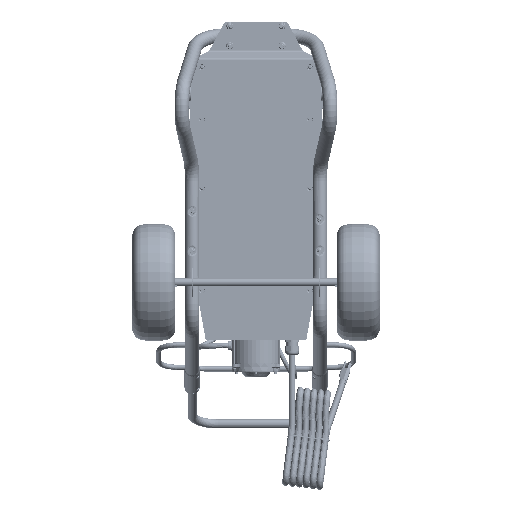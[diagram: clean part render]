
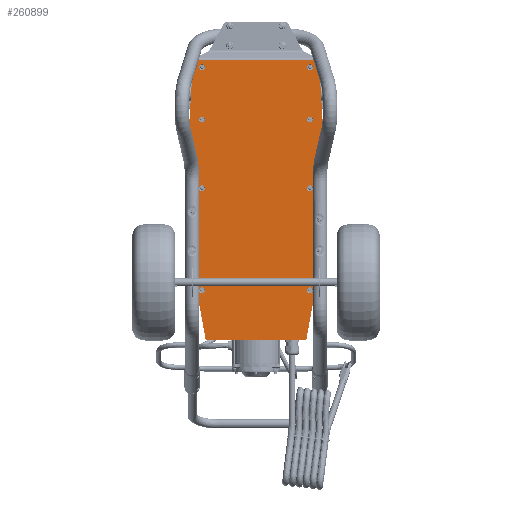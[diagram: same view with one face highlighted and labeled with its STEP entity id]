
A CAD part, front view. The second image highlights one B-rep face of the part: STEP entity #260899.
In plain terms, the highlighted planar face has unit normal (0, -1, 0).
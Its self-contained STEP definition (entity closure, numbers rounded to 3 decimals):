
#259944=CARTESIAN_POINT('',(-6.006,-0.203,3.147));
#259969=CARTESIAN_POINT('',(6.006,-0.203,3.147));
#259976=DIRECTION('',(1.,0.,0.));
#259977=VECTOR('',#259976,12.012);
#259978=CARTESIAN_POINT('',(-6.006,-0.203,3.147));
#259979=LINE('',#259978,#259977);
#260000=CARTESIAN_POINT('',(-4.633,-0.203,-23.386));
#260001=DIRECTION('',(0.,-1.,0.));
#260002=DIRECTION('',(-0.984,0.,-0.179));
#260003=AXIS2_PLACEMENT_3D('',#260000,#260001,#260002);
#260005=DIRECTION('',(-0.179,0.,0.984));
#260006=VECTOR('',#260005,3.579);
#260007=CARTESIAN_POINT('',(-4.83,-0.203,-23.422));
#260008=LINE('',#260007,#260006);
#260009=CARTESIAN_POINT('',(-6.55,-0.203,-19.536));
#260010=DIRECTION('',(0.,-1.,0.));
#260011=DIRECTION('',(-1.,0.,0.));
#260012=AXIS2_PLACEMENT_3D('',#260009,#260010,#260011);
#260014=CARTESIAN_POINT('',(-5.75,-0.203,-8.767));
#260015=DIRECTION('',(0.,-1.,0.));
#260016=DIRECTION('',(-0.998,0.,0.063));
#260017=AXIS2_PLACEMENT_3D('',#260014,#260015,#260016);
#260019=DIRECTION('',(0.063,0.,0.998));
#260020=VECTOR('',#260019,11.875);
#260021=CARTESIAN_POINT('',(-6.748,-0.203,-8.705));
#260022=LINE('',#260021,#260020);
#260023=DIRECTION('',(0.063,0.,-0.998));
#260024=VECTOR('',#260023,11.875);
#260025=CARTESIAN_POINT('',(6.006,-0.203,3.147));
#260026=LINE('',#260025,#260024);
#260027=CARTESIAN_POINT('',(5.75,-0.203,-8.767));
#260028=DIRECTION('',(0.,-1.,0.));
#260029=DIRECTION('',(1.,0.,0.));
#260030=AXIS2_PLACEMENT_3D('',#260027,#260028,#260029);
#260032=CARTESIAN_POINT('',(6.55,-0.203,-19.536));
#260033=DIRECTION('',(0.,-1.,0.));
#260034=DIRECTION('',(0.,0.,-1.));
#260035=AXIS2_PLACEMENT_3D('',#260032,#260033,#260034);
#260037=DIRECTION('',(-0.179,0.,-0.984));
#260038=VECTOR('',#260037,3.579);
#260039=CARTESIAN_POINT('',(5.47,-0.203,-19.9));
#260040=LINE('',#260039,#260038);
#260041=CARTESIAN_POINT('',(4.633,-0.203,-23.386));
#260042=DIRECTION('',(0.,-1.,0.));
#260043=DIRECTION('',(0.,0.,-1.));
#260044=AXIS2_PLACEMENT_3D('',#260041,#260042,#260043);
#260046=DIRECTION('',(-1.,0.,0.));
#260047=VECTOR('',#260046,9.266);
#260048=CARTESIAN_POINT('',(4.633,-0.203,-23.586));
#260049=LINE('',#260048,#260047);
#260066=CARTESIAN_POINT('',(5.667,-0.203,-19.936));
#260067=DIRECTION('',(0.,1.,0.));
#260068=DIRECTION('',(-0.984,0.,0.179));
#260069=AXIS2_PLACEMENT_3D('',#260066,#260067,#260068);
#260088=DIRECTION('',(1.,0.,0.));
#260089=VECTOR('',#260088,0.883);
#260090=CARTESIAN_POINT('',(5.667,-0.203,-19.736));
#260091=LINE('',#260090,#260089);
#260096=DIRECTION('',(0.,0.,-1.));
#260097=VECTOR('',#260096,10.769);
#260098=CARTESIAN_POINT('',(6.75,-0.203,-8.767));
#260099=LINE('',#260098,#260097);
#260174=DIRECTION('',(0.,0.,-1.));
#260175=VECTOR('',#260174,10.769);
#260176=CARTESIAN_POINT('',(-6.75,-0.203,-8.767));
#260177=LINE('',#260176,#260175);
#260182=DIRECTION('',(1.,0.,0.));
#260183=VECTOR('',#260182,0.883);
#260184=CARTESIAN_POINT('',(-6.55,-0.203,-19.736));
#260185=LINE('',#260184,#260183);
#260194=CARTESIAN_POINT('',(-5.667,-0.203,-19.936));
#260195=DIRECTION('',(0.,1.,0.));
#260196=DIRECTION('',(0.,0.,1.));
#260197=AXIS2_PLACEMENT_3D('',#260194,#260195,#260196);
#260238=VERTEX_POINT('',#259944);
#260241=VERTEX_POINT('',#259969);
#260247=CARTESIAN_POINT('',(6.75,-0.203,-8.767));
#260248=CARTESIAN_POINT('',(6.748,-0.203,-8.705));
#260249=VERTEX_POINT('',#260247);
#260250=VERTEX_POINT('',#260248);
#260255=CARTESIAN_POINT('',(-6.748,-0.203,-8.705));
#260256=CARTESIAN_POINT('',(-6.75,-0.203,-8.767));
#260257=VERTEX_POINT('',#260255);
#260258=VERTEX_POINT('',#260256);
#260279=CARTESIAN_POINT('',(-5.667,-0.203,-19.736));
#260281=VERTEX_POINT('',#260279);
#260283=CARTESIAN_POINT('',(-5.47,-0.203,-19.9));
#260285=VERTEX_POINT('',#260283);
#260287=CARTESIAN_POINT('',(5.47,-0.203,-19.9));
#260289=VERTEX_POINT('',#260287);
#260291=CARTESIAN_POINT('',(5.667,-0.203,-19.736));
#260293=VERTEX_POINT('',#260291);
#260295=CARTESIAN_POINT('',(-4.83,-0.203,-23.422));
#260296=CARTESIAN_POINT('',(-4.633,-0.203,-23.586));
#260297=VERTEX_POINT('',#260295);
#260298=VERTEX_POINT('',#260296);
#260303=CARTESIAN_POINT('',(4.633,-0.203,-23.586));
#260304=CARTESIAN_POINT('',(4.83,-0.203,-23.422));
#260305=VERTEX_POINT('',#260303);
#260306=VERTEX_POINT('',#260304);
#260311=CARTESIAN_POINT('',(6.55,-0.203,-19.736));
#260312=CARTESIAN_POINT('',(6.75,-0.203,-19.536));
#260313=VERTEX_POINT('',#260311);
#260314=VERTEX_POINT('',#260312);
#260319=CARTESIAN_POINT('',(-6.75,-0.203,-19.536));
#260320=CARTESIAN_POINT('',(-6.55,-0.203,-19.736));
#260321=VERTEX_POINT('',#260319);
#260322=VERTEX_POINT('',#260320);
#260859=CARTESIAN_POINT('',(-6.75,-0.203,3.303));
#260860=DIRECTION('',(0.,-1.,0.));
#260861=DIRECTION('',(0.,0.,-1.));
#260862=AXIS2_PLACEMENT_3D('',#260859,#260860,#260861);
#260863=PLANE('',#260862);
#260865=ORIENTED_EDGE('',*,*,#260864,.F.);
#260867=ORIENTED_EDGE('',*,*,#260866,.T.);
#260869=ORIENTED_EDGE('',*,*,#260868,.F.);
#260871=ORIENTED_EDGE('',*,*,#260870,.F.);
#260873=ORIENTED_EDGE('',*,*,#260872,.F.);
#260875=ORIENTED_EDGE('',*,*,#260874,.F.);
#260877=ORIENTED_EDGE('',*,*,#260876,.F.);
#260879=ORIENTED_EDGE('',*,*,#260878,.T.);
#260880=ORIENTED_EDGE('',*,*,#260726,.T.);
#260881=ORIENTED_EDGE('',*,*,#260836,.T.);
#260882=ORIENTED_EDGE('',*,*,#260849,.F.);
#260884=ORIENTED_EDGE('',*,*,#260883,.T.);
#260886=ORIENTED_EDGE('',*,*,#260885,.F.);
#260888=ORIENTED_EDGE('',*,*,#260887,.F.);
#260890=ORIENTED_EDGE('',*,*,#260889,.F.);
#260892=ORIENTED_EDGE('',*,*,#260891,.T.);
#260894=ORIENTED_EDGE('',*,*,#260893,.F.);
#260896=ORIENTED_EDGE('',*,*,#260895,.T.);
#260897=EDGE_LOOP('',(#260865,#260867,#260869,#260871,#260873,#260875,#260877,
#260879,#260880,#260881,#260882,#260884,#260886,#260888,#260890,#260892,#260894,
#260896));
#260898=FACE_OUTER_BOUND('',#260897,.F.);
#260899=ADVANCED_FACE('',(#260898),#260863,.T.);
#260004=CIRCLE('',#260003,0.2);
#260013=CIRCLE('',#260012,0.2);
#260018=CIRCLE('',#260017,1.);
#260031=CIRCLE('',#260030,1.);
#260036=CIRCLE('',#260035,0.2);
#260045=CIRCLE('',#260044,0.2);
#260070=CIRCLE('',#260069,0.2);
#260198=CIRCLE('',#260197,0.2);
#260726=EDGE_CURVE('',#260238,#260241,#259979,.T.);
#260836=EDGE_CURVE('',#260241,#260250,#260026,.T.);
#260849=EDGE_CURVE('',#260249,#260250,#260031,.T.);
#260864=EDGE_CURVE('',#260297,#260298,#260004,.T.);
#260866=EDGE_CURVE('',#260297,#260285,#260008,.T.);
#260868=EDGE_CURVE('',#260281,#260285,#260198,.T.);
#260870=EDGE_CURVE('',#260322,#260281,#260185,.T.);
#260872=EDGE_CURVE('',#260321,#260322,#260013,.T.);
#260874=EDGE_CURVE('',#260258,#260321,#260177,.T.);
#260876=EDGE_CURVE('',#260257,#260258,#260018,.T.);
#260878=EDGE_CURVE('',#260257,#260238,#260022,.T.);
#260883=EDGE_CURVE('',#260249,#260314,#260099,.T.);
#260885=EDGE_CURVE('',#260313,#260314,#260036,.T.);
#260887=EDGE_CURVE('',#260293,#260313,#260091,.T.);
#260889=EDGE_CURVE('',#260289,#260293,#260070,.T.);
#260891=EDGE_CURVE('',#260289,#260306,#260040,.T.);
#260893=EDGE_CURVE('',#260305,#260306,#260045,.T.);
#260895=EDGE_CURVE('',#260305,#260298,#260049,.T.);
